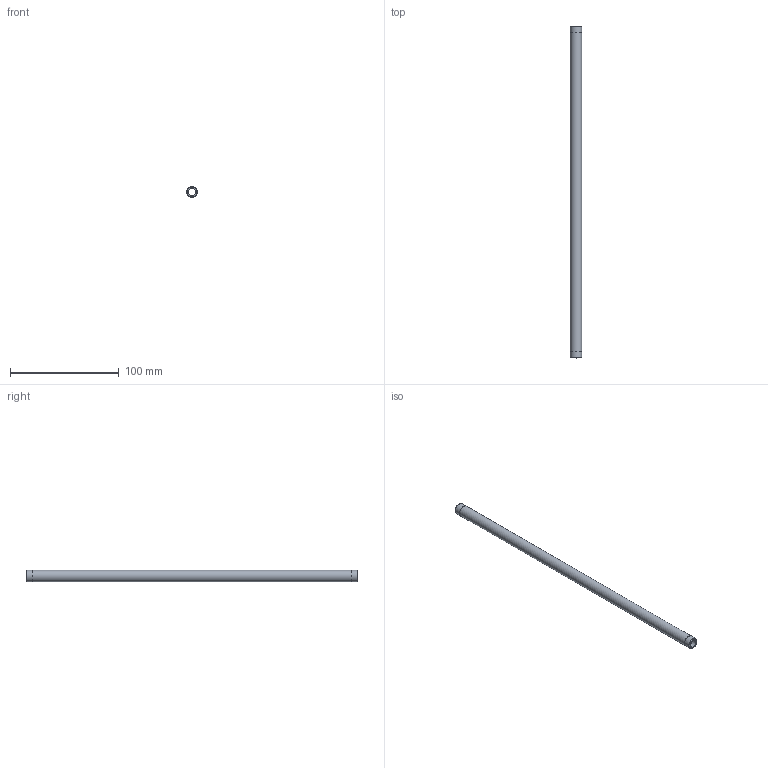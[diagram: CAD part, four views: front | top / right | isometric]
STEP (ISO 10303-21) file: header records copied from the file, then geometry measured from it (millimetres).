
FILE_DESCRIPTION(/* description */ (''),/* implementation_level */ '2;1');
FILE_NAME(/* name */ 'C:/Users/drich/Desktop/BPN18-12 v1.step',/* time_stamp */ '2020-01-03T14:50:10-06:00',/* author */ (''),/* organization */ (''),/* preprocessor_version */ 'ST-DEVELOPER v18',/* originating_system */ 'Autodesk Translation Framework v8.12.0.6',/* authorisation */ '');
FILE_SCHEMA (('AUTOMOTIVE_DESIGN { 1 0 10303 214 3 1 1 }'));
Length unit declared in the file: inch
Products named in the file (1): BPN18-12
Bounding box: 10.31 x 304.8 x 10.31 mm (x, y, z)
Volume: 14254 mm3; surface area: 16478.7 mm2
Topology: 1 solids, 1 shells, 10 faces, 24 edges, 18 vertices
Faces by surface type: cylinder 4, plane 4, cone 2
Full cylindrical faces by diameter (mm): 6.833 x1, 10.262 x2, 10.312 x1
Entity records: 360 total; most frequent: DIRECTION 64, CARTESIAN_POINT 53, ORIENTED_EDGE 48, AXIS2_PLACEMENT_3D 29, EDGE_CURVE 24, CIRCLE 18, VERTEX_POINT 18, EDGE_LOOP 14
